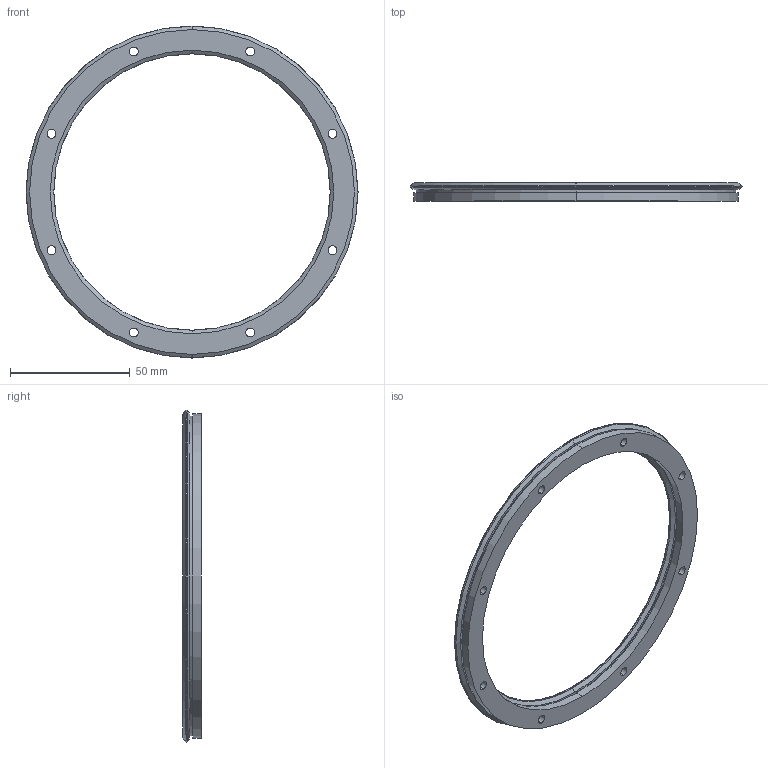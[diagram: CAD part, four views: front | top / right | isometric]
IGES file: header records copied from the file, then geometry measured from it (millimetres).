
Start section: 3D InterOp IGES (v. 2020 1.0.1), Spatial Corp. Copyright (c) 1999-2017.
Global section: file name: r12_127_r360.igs; native system: Spatial Corp.; preprocessor: 3D InterOp ACIS/IGES; author: TraceParts; organization: TraceParts S.A.; date: 20220624.023125; units: millimetre
Bounding box: 138.63 x 7.7 x 138.63 mm (x, y, z)
Surface area: 16475.4 mm2 (no closed solid volume)
Topology: 0 solids, 0 shells, 70 faces, 312 edges, 312 vertices
Faces by surface type: revolution 56, extrusion 14
